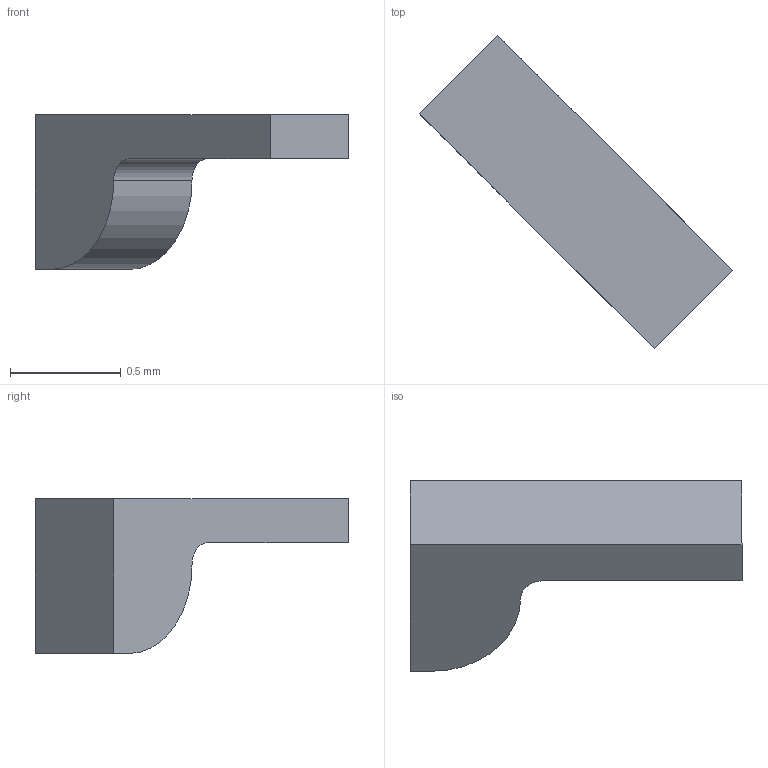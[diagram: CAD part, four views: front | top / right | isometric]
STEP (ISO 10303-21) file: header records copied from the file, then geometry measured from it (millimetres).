
FILE_DESCRIPTION(/* description */ ('STEP AP242 Edition 2','CAx-IF Rec.Pracs.---Representation and Presentation of Product Manufacturing Information (PMI)---4.0---2014-10-13','CAx-IF Rec.Pracs.---3D Tessellated Geometry---0.4---2014-09-14','2;1','CAx-IF Rec.Pracs.---User Defined Attributes---1.5---2016-08-15'),/* implementation_level */ '2;1');
FILE_NAME(/* name */ 'Drone Layout - Surface 38',/* time_stamp */ '2026-10-04T22:22:58Z',/* author */ (''),/* organization */ (''),/* preprocessor_version */ 'ST-DEVELOPER v20',/* originating_system */ 'ONSHAPE BY PTC INC, 1.221',/* authorisation */ ' ');
FILE_SCHEMA (('AP242_MANAGED_MODEL_BASED_3D_ENGINEERING_MIM_LF { 1 0 10303 442 3 1 4 }'));
Length unit declared in the file: metre
Products named in the file (1): chip1:1__pins (2)
Bounding box: 1.41 x 1.41 x 0.7 mm (x, y, z)
Volume: 0.3 mm3; surface area: 3.1 mm2
Topology: 1 solids, 1 shells, 9 faces, 21 edges, 14 vertices
Faces by surface type: plane 7, cylinder 2
Entity records: 272 total; most frequent: DIRECTION 45, CARTESIAN_POINT 45, ORIENTED_EDGE 42, EDGE_CURVE 21, LINE 17, VECTOR 17, VERTEX_POINT 14, AXIS2_PLACEMENT_3D 14
